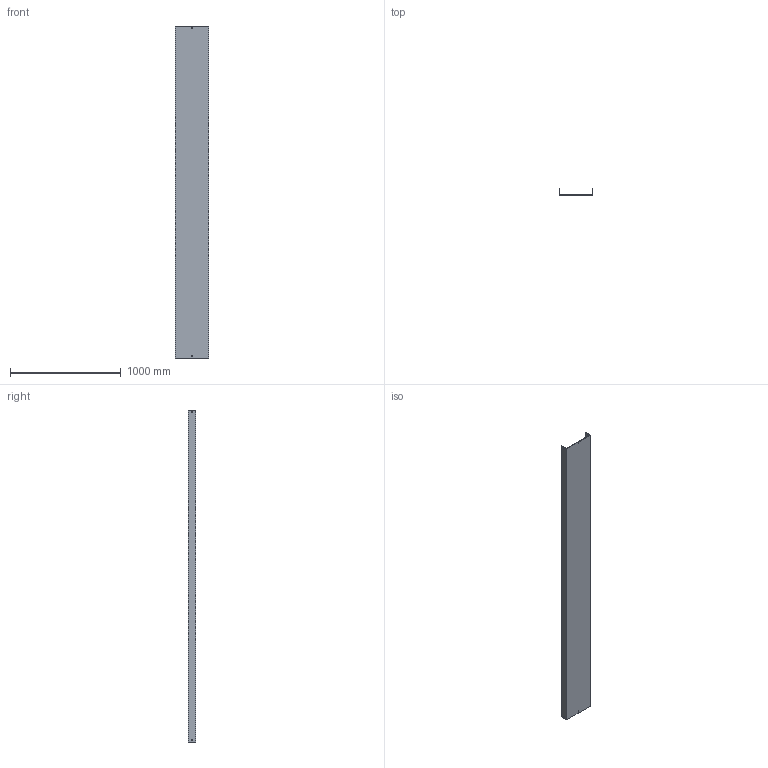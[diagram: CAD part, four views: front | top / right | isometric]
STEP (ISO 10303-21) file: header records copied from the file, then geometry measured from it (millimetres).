
FILE_DESCRIPTION (( 'STEP AP214' ), '1' );
FILE_NAME ('03B3H300.step', '2025-02-21T10:18:14', ( '' ), ( '' ), 'SwSTEP 2.0', 'SolidWorks 2023', '' );
FILE_SCHEMA (( 'AUTOMOTIVE_DESIGN' ));
Length unit declared in the file: millimetre
Products named in the file (1): 03B3H300
Bounding box: 304 x 65.5 x 3000 mm (x, y, z)
Volume: 4492610.5 mm3; surface area: 2591895 mm2
Topology: 1 solids, 1 shells, 34 faces, 96 edges, 64 vertices
Faces by surface type: plane 34
Entity records: 1127 total; most frequent: CARTESIAN_POINT 195, ORIENTED_EDGE 192, DIRECTION 166, VECTOR 96, EDGE_CURVE 96, LINE 96, VERTEX_POINT 64, EDGE_LOOP 46
